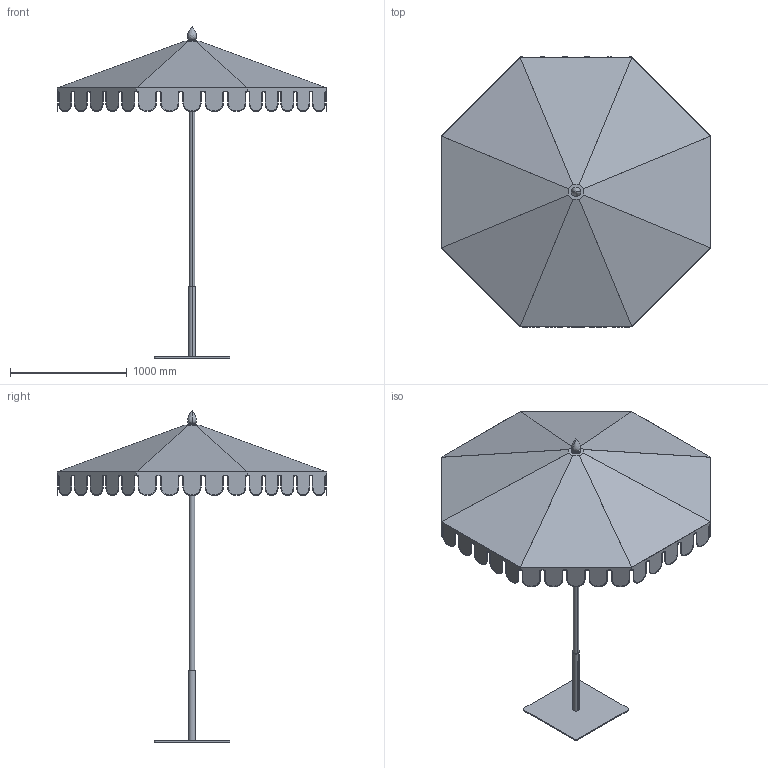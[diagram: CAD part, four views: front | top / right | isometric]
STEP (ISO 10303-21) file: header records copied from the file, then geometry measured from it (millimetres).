
FILE_DESCRIPTION(/* description */ (''),/* implementation_level */ '2;1');
FILE_NAME(/* name */ 'RIVIERA',/* time_stamp */ '2025-02-26T16:32:07+01:00',/* author */ (''),/* organization */ (''),/* preprocessor_version */ 'ST-DEVELOPER v19.2',/* originating_system */ 'Rhino 8.15',/* authorisation */ '');
FILE_SCHEMA (('AUTOMOTIVE_DESIGN_CC2'));
Length unit declared in the file: millimetre
Products named in the file (1): Document
Bounding box: 2311.2 x 2311.2 x 2842 mm (x, y, z)
Volume: 9850040 mm3; surface area: 13804401.5 mm2
Topology: 5 solids, 19 shells, 2193 faces, 5072 edges, 2900 vertices
Faces by surface type: cylinder 810, plane 735, bspline 648
Entity records: 92921 total; most frequent: CARTESIAN_POINT 49198, ORIENTED_EDGE 10084, DIRECTION 6143, EDGE_CURVE 5070, AXIS2_PLACEMENT_3D 3844, VERTEX_POINT 2900, B_SPLINE_CURVE_WITH_KNOTS 2726, TRIMMED_CURVE 2296
